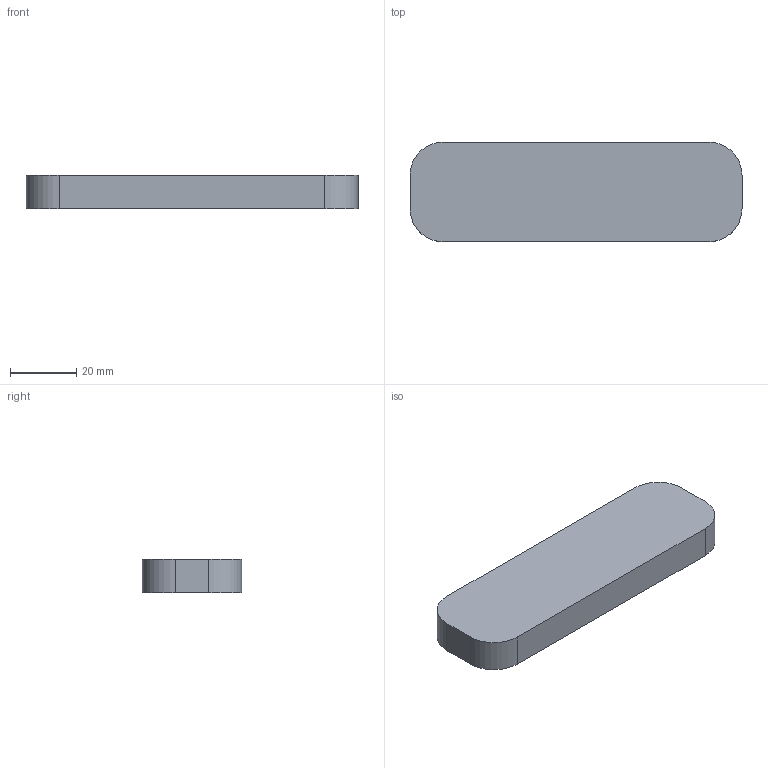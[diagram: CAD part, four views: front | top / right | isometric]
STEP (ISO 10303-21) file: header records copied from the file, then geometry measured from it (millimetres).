
FILE_DESCRIPTION(/* description */ ('STEP AP242 Edition 2','CAx-IF Rec.Pracs.---Representation and Presentation of Product Manufacturing Information (PMI)---4.0---2014-10-13','CAx-IF Rec.Pracs.---3D Tessellated Geometry---0.4---2014-09-14','2;1','CAx-IF Rec.Pracs.---User Defined Attributes---1.5---2016-08-15'),/* implementation_level */ '2;1');
FILE_NAME(/* name */ 'Assembly 1 - Part 12 (2)',/* time_stamp */ '2026-10-18T18:48:31Z',/* author */ (''),/* organization */ (''),/* preprocessor_version */ 'ST-DEVELOPER v20',/* originating_system */ 'ONSHAPE BY PTC INC, 1.222',/* authorisation */ ' ');
FILE_SCHEMA (('AP242_MANAGED_MODEL_BASED_3D_ENGINEERING_MIM_LF { 1 0 10303 442 3 1 4 }'));
Length unit declared in the file: metre
Products named in the file (1): Part 12
Bounding box: 100 x 30 x 10 mm (x, y, z)
Volume: 29141.6 mm3; surface area: 8256.6 mm2
Topology: 1 solids, 1 shells, 10 faces, 24 edges, 16 vertices
Faces by surface type: plane 6, cylinder 4
Entity records: 318 total; most frequent: DIRECTION 54, CARTESIAN_POINT 51, ORIENTED_EDGE 48, EDGE_CURVE 24, AXIS2_PLACEMENT_3D 19, VERTEX_POINT 16, LINE 16, VECTOR 16
